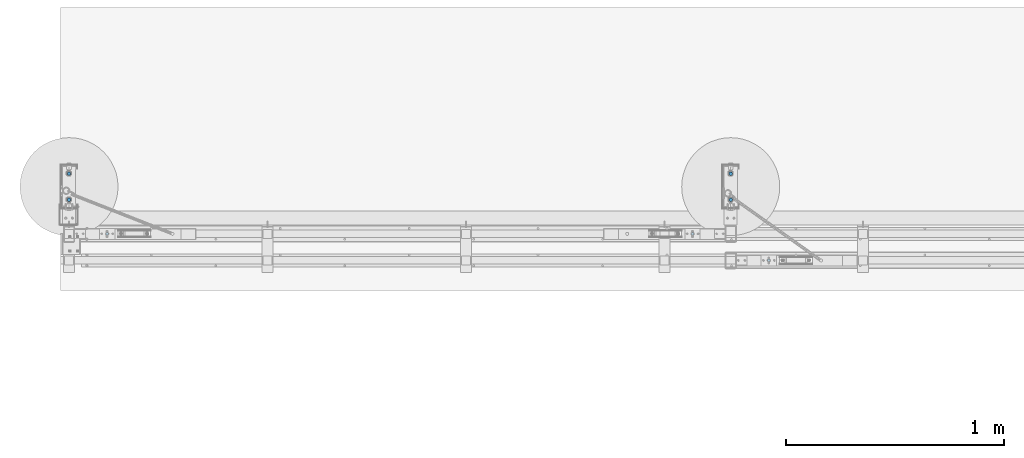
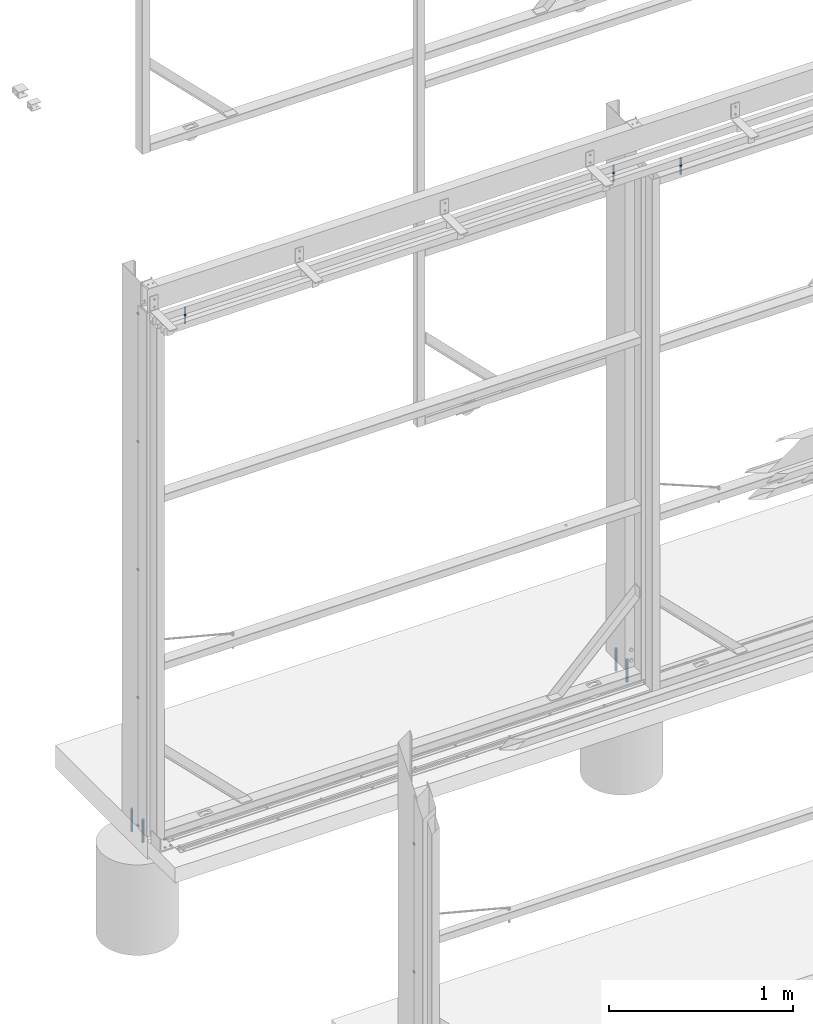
# One storey, part 4 of 91: 7 columns, 7 elements without a shape of their own.
"""IFC2X3 building model written with IfcOpenShell, lengths in millimetres."""

import ifcopenshell
import ifcopenshell.guid

model = None  # the IFC model being written
_history = None  # IfcOwnerHistory: only IFC2X3 demands one
_inside = {}  # id of a spatial element -> (the spatial element, [elements in it])
_under = {}  # id of a project, library or spatial element -> (it, [spatial elements below it])
_declared = {}  # id of a project -> (the project, [libraries it declares])
_typed = {}  # id of a type object -> (the type object, [elements of that type])
_made_of = {}  # id of a material, layer set ... -> (it, [elements and type objects made of it])


def new_model(schema):
    """Start an empty IFC model of exactly this schema.

    Asked for "IFC4X3", IfcOpenShell would pick the latest addendum, in which some entities
    have other attributes; the version numbers below select the first issue.
    IFC2X3 requires an IfcOwnerHistory on every rooted entity: one is made here for all.
    """
    global model, _history
    if schema == "IFC4X3":
        model = ifcopenshell.file(schema_version=(4, 3, 0, 0))
    else:
        model = ifcopenshell.file(schema=schema)
    _inside.clear()
    _under.clear()
    _declared.clear()
    _typed.clear()
    _made_of.clear()
    _history = None
    if model.schema == "IFC2X3":
        org = make("IfcOrganization", Name="unknown")
        user = make(
            "IfcPersonAndOrganization",
            ThePerson=make("IfcPerson", FamilyName="unknown"),
            TheOrganization=org,
        )
        app = make(
            "IfcApplication",
            ApplicationDeveloper=org,
            Version="unknown",
            ApplicationFullName="unknown",
            ApplicationIdentifier="unknown",
        )
        _history = make(
            "IfcOwnerHistory",
            OwningUser=user,
            OwningApplication=app,
            ChangeAction="ADDED",
            CreationDate=0,
        )
    return model


def make(cls, **values):
    """One entity of the class cls with the attributes given. An attribute that is None is left unset."""
    return model.create_entity(
        cls, **{name: value for name, value in values.items() if value is not None}
    )


def rooted(cls, **values):
    """An entity with a GlobalId (a new one), such as an element, a storey or a relation."""
    return make(cls, GlobalId=ifcopenshell.guid.new(), OwnerHistory=_history, **values)


def si_unit(unit_type, name, prefix=None):
    """IfcSIUnit, for example si_unit("LENGTHUNIT", "METRE", prefix="MILLI")."""
    return make("IfcSIUnit", UnitType=unit_type, Prefix=prefix, Name=name)


def assignment(units):
    """IfcUnitAssignment: the units of a project."""
    return None if units is None else make("IfcUnitAssignment", Units=units)


def point(xyz):
    """IfcCartesianPoint."""
    return None if xyz is None else make("IfcCartesianPoint", Coordinates=xyz)


def direction(xyz):
    """IfcDirection."""
    return None if xyz is None else make("IfcDirection", DirectionRatios=xyz)


def frame(location, z_axis=None, x_axis=None):
    """IfcAxis2Placement3D, a coordinate frame: its origin and axes. An axis left out is left unset."""
    return make(
        "IfcAxis2Placement3D",
        Location=point(location),
        Axis=direction(z_axis),
        RefDirection=direction(x_axis),
    )


def frame_2d(location, x_axis=None):
    """IfcAxis2Placement2D, a coordinate frame in the plane: its origin and x axis."""
    return make(
        "IfcAxis2Placement2D", Location=point(location), RefDirection=direction(x_axis)
    )


def origin_with_axes():
    """The frame at (0, 0, 0) with the z axis (0, 0, 1) and the x axis (1, 0, 0) written out."""
    return frame((0.0, 0.0, 0.0), z_axis=(0.0, 0.0, 1.0), x_axis=(1.0, 0.0, 0.0))


def origin_2d_with_axis():
    """The frame at (0, 0) in the plane with the x axis (1, 0) written out."""
    return frame_2d((0.0, 0.0), x_axis=(1.0, 0.0))


def place(relative_to, where):
    """IfcLocalPlacement: puts the frame where relative to a parent placement (None: the world)."""
    return make(
        "IfcLocalPlacement", PlacementRelTo=relative_to, RelativePlacement=where
    )


def context(
    kind, dimensions, precision=None, world=None, true_north=None, identifier=None
):
    """IfcGeometricRepresentationContext, for example the 3D "Model" context."""
    return make(
        "IfcGeometricRepresentationContext",
        ContextIdentifier=identifier,
        ContextType=kind,
        CoordinateSpaceDimension=dimensions,
        Precision=precision,
        WorldCoordinateSystem=world,
        TrueNorth=true_north,
    )


def subcontext(parent, identifier, kind, view, scale=None):
    """IfcGeometricRepresentationSubContext, for example "Body" below "Model"."""
    return make(
        "IfcGeometricRepresentationSubContext",
        ContextIdentifier=identifier,
        ContextType=kind,
        ParentContext=parent,
        TargetScale=scale,
        TargetView=view,
    )


def project(units=None, contexts=None):
    """IfcProject with its units and contexts."""
    return rooted(
        "IfcProject",
        Name="project",
        RepresentationContexts=contexts,
        UnitsInContext=assignment(units),
    )


def spatial(cls, under=None, at=None, **own):
    """A site, building, storey or space (cls), placed at a placement, below another one or the project."""
    s = rooted(cls, ObjectPlacement=at, **own)
    if under is not None:
        _under.setdefault(under.id(), (under, []))[1].append(s)
    return s


def profile(cls, at=None, kind="AREA", **sizes):
    """A parametric profile (cls). Its sizes go by their IFC names, for example OverallWidth=200.0."""
    return make(cls, ProfileType=kind, Position=at, **sizes)


def circle(**sizes):
    """IfcCircleProfileDef."""
    return profile("IfcCircleProfileDef", **sizes)


def extrude(swept, where, along, depth):
    """IfcExtrudedAreaSolid: the profile swept, set in the frame where, extruded along a direction by depth."""
    return make(
        "IfcExtrudedAreaSolid",
        SweptArea=swept,
        Position=where,
        ExtrudedDirection=direction(along),
        Depth=depth,
    )


def boolean(op, a, b):
    """IfcBooleanResult of two solids."""
    return make("IfcBooleanResult", Operator=op, FirstOperand=a, SecondOperand=b)


def shape(context_of_items, identifier, shape_type, items):
    """IfcShapeRepresentation: the items that make up one representation, for example the "Body"."""
    return make(
        "IfcShapeRepresentation",
        ContextOfItems=context_of_items,
        RepresentationIdentifier=identifier,
        RepresentationType=shape_type,
        Items=items,
    )


def material(Name=None, Category=None):
    """IfcMaterial."""
    return make("IfcMaterial", Name=Name, Category=Category)


def made_of(thing, what):
    """Note that an element or type object is made of a material, layer set ...; save() writes the relation."""
    if what is not None:
        _made_of.setdefault(what.id(), (what, []))[1].append(thing)
    return thing


def type_object(cls, material=None, **own):
    """A type object (cls), such as IfcWallType, which elements share."""
    return made_of(rooted(cls, **own), material)


def element(
    cls,
    number,
    at=None,
    inside=None,
    cuts=None,
    type_object=None,
    material=None,
    context=None,
    identifier="Body",
    shape_type=None,
    held_by="IfcProductDefinitionShape",
    body=None,
    shapes=None,
    **own,
):
    """One element of the class cls, such as IfcWall. Its Tag is "e" and its number.

    at: its placement. inside: the storey or other place that contains it. cuts: it is an
    opening in that element (IfcRelVoidsElement). A single representation is given by context,
    identifier, shape_type and body (its items); several are given by shapes. held_by: the class
    of the entity that holds the representations. save() writes the other relations.
    """
    e = rooted(cls, Tag="e%d" % number, ObjectPlacement=at, **own)
    if body is not None:
        shapes = [shape(context, identifier, shape_type, body)]
    if shapes is not None:
        e.Representation = make(held_by, Representations=shapes)
    if inside is not None:
        _inside.setdefault(inside.id(), (inside, []))[1].append(e)
    if cuts is not None:
        rooted(
            "IfcRelVoidsElement", RelatingBuildingElement=cuts, RelatedOpeningElement=e
        )
    if type_object is not None:
        _typed.setdefault(type_object.id(), (type_object, []))[1].append(e)
    return made_of(e, material)


def aggregate(whole, parts):
    """IfcRelAggregates: a whole, such as a stair, and the parts it consists of."""
    return rooted("IfcRelAggregates", RelatingObject=whole, RelatedObjects=parts)


def save(model, path):
    """Write the relations noted so far, then the file.

    IfcRelAggregates (storeys below a building ...), IfcRelContainedInSpatialStructure (elements
    in a storey), IfcRelDefinesByType, IfcRelAssociatesMaterial and IfcRelDeclares: one each for
    every whole, place, type object, material and project.
    """
    for whole, parts in _under.values():
        aggregate(whole, parts)
    for where, things in _inside.values():
        rooted(
            "IfcRelContainedInSpatialStructure",
            RelatedElements=things,
            RelatingStructure=where,
        )
    for kind, things in _typed.values():
        rooted("IfcRelDefinesByType", RelatedObjects=things, RelatingType=kind)
    for what, things in _made_of.values():
        rooted("IfcRelAssociatesMaterial", RelatedObjects=things, RelatingMaterial=what)
    for by, libraries in _declared.values():
        rooted("IfcRelDeclares", RelatingContext=by, RelatedDefinitions=libraries)
    model.write(path)


model = new_model("IFC2X3")

# Units and contexts
model_context = context("Model", 3, precision=1e-05, world=origin_with_axes())
body_context = subcontext(model_context, "Body", "Model", "MODEL_VIEW")
ifc_project = project(units=[si_unit("LENGTHUNIT", "METRE", prefix="MILLI"), si_unit("AREAUNIT", "SQUARE_METRE"), si_unit("VOLUMEUNIT", "CUBIC_METRE"), si_unit("MASSUNIT", "GRAM", prefix="KILO"), si_unit("TIMEUNIT", "SECOND"), si_unit("PLANEANGLEUNIT", "RADIAN"), si_unit("SOLIDANGLEUNIT", "STERADIAN"), si_unit("THERMODYNAMICTEMPERATUREUNIT", "DEGREE_CELSIUS"), si_unit("LUMINOUSINTENSITYUNIT", "LUMEN")], contexts=[model_context])

# Site, building, storey
site_placement = place(None, origin_with_axes())
site = spatial("IfcSite", under=ifc_project, at=site_placement, Name="Undefined", CompositionType="ELEMENT")
building_placement = place(site_placement, origin_with_axes())
building = spatial("IfcBuilding", under=site, at=building_placement, Name="Undefined", CompositionType="ELEMENT")
storey_placement = place(building_placement, origin_with_axes())
storey = spatial("IfcBuildingStorey", under=building, at=storey_placement, Name="Undefined", CompositionType="ELEMENT", Elevation=0.0)

# Assembly, column
assembly_1_placement = place(storey_placement, origin_with_axes())
assembly_1 = element("IfcElementAssembly", 1, at=assembly_1_placement, inside=storey, Name="ROD", AssemblyPlace="NOTDEFINED", PredefinedType="RIGID_FRAME")
ifc_material_1 = material(Name="STEEL/250")
column_type_1 = type_object("IfcColumnType", Name="D12", PredefinedType="NOTDEFINED")
column_1_placement = place(assembly_1_placement, frame((-113583.34, 87590.15, 3320.0), z_axis=(0.0, 0.0, 1.0), x_axis=(1.0, 0.0, 0.0)))
column_1 = element("IfcColumn", 2, at=column_1_placement, type_object=column_type_1, material=ifc_material_1, Name="ROD", ObjectType="D12", context=body_context, shape_type="CSG", body=[
    boolean("DIFFERENCE", extrude(circle(Radius=6.0, at=origin_2d_with_axis()), frame((0.0, 0.0, 110.0), z_axis=(0.0, 0.0, -1.0), x_axis=(0.0, 1.0, 0.0)), (0.0, 0.0, 1.0), 110.0), extrude(circle(Radius=3.5, at=origin_2d_with_axis()), frame((0.0, 15.0, 101.0), z_axis=(0.0, -1.0, 0.0), x_axis=(0.0, 0.0, -1.0)), (0.0, 0.0, 1.0), 30.0)),
])
aggregate(assembly_1, [column_1])

assembly_2_placement = place(storey_placement, origin_with_axes())
assembly_2 = element("IfcElementAssembly", 3, at=assembly_2_placement, inside=storey, Name="ROD", AssemblyPlace="NOTDEFINED", PredefinedType="RIGID_FRAME")
column_2_placement = place(assembly_2_placement, frame((-113933.34, 87712.15, 3320.0), z_axis=(0.0, 0.0, 1.0), x_axis=(1.0, 0.0, 0.0)))
column_2 = element("IfcColumn", 4, at=column_2_placement, type_object=column_type_1, material=ifc_material_1, Name="ROD", ObjectType="D12", context=body_context, shape_type="CSG", body=[
    boolean("DIFFERENCE", extrude(circle(Radius=6.0, at=origin_2d_with_axis()), frame((0.0, 0.0, 110.0), z_axis=(0.0, 0.0, -1.0), x_axis=(0.0, 1.0, 0.0)), (0.0, 0.0, 1.0), 110.0), extrude(circle(Radius=3.5, at=origin_2d_with_axis()), frame((0.0, 15.0, 101.0), z_axis=(0.0, -1.0, 0.0), x_axis=(0.0, 0.0, -1.0)), (0.0, 0.0, 1.0), 30.0)),
])
aggregate(assembly_2, [column_2])

assembly_3_placement = place(storey_placement, origin_with_axes())
assembly_3 = element("IfcElementAssembly", 5, at=assembly_3_placement, inside=storey, Name="ROD", AssemblyPlace="NOTDEFINED", PredefinedType="RIGID_FRAME")
column_3_placement = place(assembly_3_placement, frame((-116620.84, 87712.15, 3320.0), z_axis=(0.0, 0.0, 1.0), x_axis=(1.0, 0.0, 0.0)))
column_3 = element("IfcColumn", 6, at=column_3_placement, type_object=column_type_1, material=ifc_material_1, Name="ROD", ObjectType="D12", context=body_context, shape_type="CSG", body=[
    boolean("DIFFERENCE", extrude(circle(Radius=6.0, at=origin_2d_with_axis()), frame((0.0, 0.0, 110.0), z_axis=(0.0, 0.0, -1.0), x_axis=(0.0, 1.0, 0.0)), (0.0, 0.0, 1.0), 110.0), extrude(circle(Radius=3.5, at=origin_2d_with_axis()), frame((0.0, 15.0, 101.0), z_axis=(0.0, -1.0, 0.0), x_axis=(0.0, 0.0, -1.0)), (0.0, 0.0, 1.0), 30.0)),
])
aggregate(assembly_3, [column_3])

assembly_4_placement = place(storey_placement, origin_with_axes())
assembly_4 = element("IfcElementAssembly", 7, at=assembly_4_placement, inside=storey, Name="THROUGH BOLTS", AssemblyPlace="NOTDEFINED", PredefinedType="RIGID_FRAME")
ifc_material_2 = material(Name="STEEL/300")
column_type_2 = type_object("IfcColumnType", Name="D16", PredefinedType="NOTDEFINED")
column_4_placement = place(assembly_4_placement, frame((-116795.84, 87868.65, -151.0), z_axis=(0.0, 0.0, 1.0), x_axis=(0.0, 1.0, 0.0)))
column_4 = element("IfcColumn", 8, at=column_4_placement, type_object=column_type_2, material=ifc_material_2, Name="THROUGH BOLTS", ObjectType="D16", context=body_context, shape_type="SweptSolid", body=[
    extrude(circle(Radius=8.0, at=origin_2d_with_axis()), frame((0.0, 0.0, 150.0), z_axis=(0.0, 0.0, -1.0), x_axis=(0.0, 1.0, 0.0)), (0.0, 0.0, 1.0), 150.0),
])
aggregate(assembly_4, [column_4])

assembly_5_placement = place(storey_placement, origin_with_axes())
assembly_5 = element("IfcElementAssembly", 9, at=assembly_5_placement, inside=storey, Name="THROUGH BOLTS", AssemblyPlace="NOTDEFINED", PredefinedType="RIGID_FRAME")
column_5_placement = place(assembly_5_placement, frame((-116795.84, 87988.65, -151.0), z_axis=(0.0, 0.0, 1.0), x_axis=(0.0, 1.0, 0.0)))
column_5 = element("IfcColumn", 10, at=column_5_placement, type_object=column_type_2, material=ifc_material_2, Name="THROUGH BOLTS", ObjectType="D16", context=body_context, shape_type="SweptSolid", body=[
    extrude(circle(Radius=8.0, at=origin_2d_with_axis()), frame((0.0, 0.0, 150.0), z_axis=(0.0, 0.0, -1.0), x_axis=(0.0, 1.0, 0.0)), (0.0, 0.0, 1.0), 150.0),
])
aggregate(assembly_5, [column_5])

assembly_6_placement = place(storey_placement, origin_with_axes())
assembly_6 = element("IfcElementAssembly", 11, at=assembly_6_placement, inside=storey, Name="THROUGH BOLTS", AssemblyPlace="NOTDEFINED", PredefinedType="RIGID_FRAME")
column_6_placement = place(assembly_6_placement, frame((-113758.34, 87868.65, -151.0), z_axis=(0.0, 0.0, 1.0), x_axis=(0.0, 1.0, 0.0)))
column_6 = element("IfcColumn", 12, at=column_6_placement, type_object=column_type_2, material=ifc_material_2, Name="THROUGH BOLTS", ObjectType="D16", context=body_context, shape_type="SweptSolid", body=[
    extrude(circle(Radius=8.0, at=origin_2d_with_axis()), frame((0.0, 0.0, 150.0), z_axis=(0.0, 0.0, -1.0), x_axis=(0.0, 1.0, 0.0)), (0.0, 0.0, 1.0), 150.0),
])
aggregate(assembly_6, [column_6])

assembly_7_placement = place(storey_placement, origin_with_axes())
assembly_7 = element("IfcElementAssembly", 13, at=assembly_7_placement, inside=storey, Name="THROUGH BOLTS", AssemblyPlace="NOTDEFINED", PredefinedType="RIGID_FRAME")
column_7_placement = place(assembly_7_placement, frame((-113758.34, 87988.65, -151.0), z_axis=(0.0, 0.0, 1.0), x_axis=(0.0, 1.0, 0.0)))
column_7 = element("IfcColumn", 14, at=column_7_placement, type_object=column_type_2, material=ifc_material_2, Name="THROUGH BOLTS", ObjectType="D16", context=body_context, shape_type="SweptSolid", body=[
    extrude(circle(Radius=8.0, at=origin_2d_with_axis()), frame((0.0, 0.0, 150.0), z_axis=(0.0, 0.0, -1.0), x_axis=(0.0, 1.0, 0.0)), (0.0, 0.0, 1.0), 150.0),
])
aggregate(assembly_7, [column_7])

save(model, "model.ifc")
